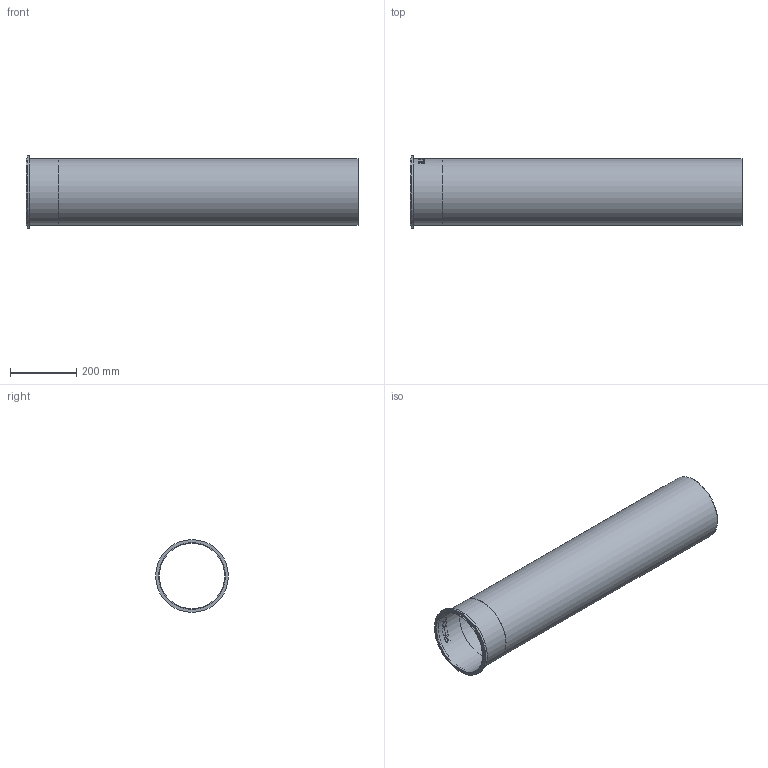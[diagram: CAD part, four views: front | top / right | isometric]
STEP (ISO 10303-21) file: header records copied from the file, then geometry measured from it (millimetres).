
FILE_DESCRIPTION((''),'2;1');
FILE_NAME('I:\WATTS\3D_CAD\3D_CAD_Models\Blucher_Drains\P_StraightPipe\WebsiteFiles\3D\STEP\P8-3.3-316.stp','2009-12-03T09:01:53',('menesek'),(''),'Autodesk Inventor 2010','Autodesk Inventor 2010','');
FILE_SCHEMA(('AUTOMOTIVE_DESIGN { 1 0 10303 214 1 1 1 1 }'));
Length unit declared in the file: inch
Products named in the file (1): P8-3.3-316
Bounding box: 1000 x 218.95 x 218.95 mm (x, y, z)
Volume: 1018863.7 mm3; surface area: 1261695.6 mm2
Topology: 1 solids, 1 shells, 109 faces, 285 edges, 190 vertices
Faces by surface type: plane 59, bspline 34, cylinder 16
Full cylindrical faces by diameter (mm): 196.85 x1, 199.898 x1, 200.914 x2, 218.948 x1
Entity records: 14215 total; most frequent: CARTESIAN_POINT 11837, ORIENTED_EDGE 548, DIRECTION 356, EDGE_CURVE 274, VERTEX_POINT 186, EDGE_LOOP 128, AXIS2_PLACEMENT_3D 120, VECTOR 116
